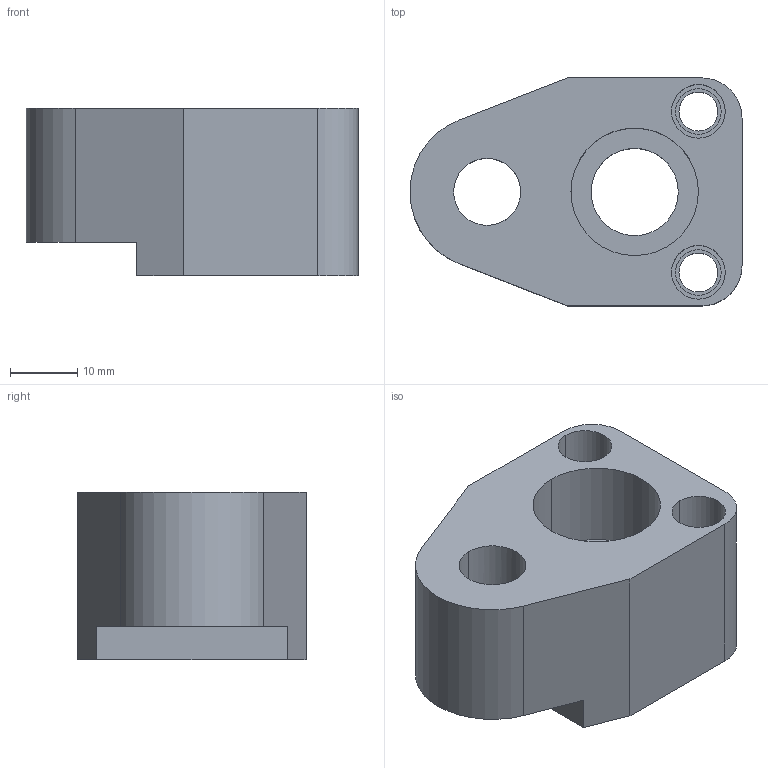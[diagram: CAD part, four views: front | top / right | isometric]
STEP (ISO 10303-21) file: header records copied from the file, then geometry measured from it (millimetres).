
FILE_DESCRIPTION(/* description */ (''),/* implementation_level */ '2;1');
FILE_NAME(/* name */ '3d_tp-fsn10_05676_r00.stp',/* time_stamp */ '2011-01-10T14:08:59+09:00',/* author */ ('MISUMI'),/* organization */ (''),/* preprocessor_version */ 'ST-DEVELOPER v11',/* originating_system */ 'UGS - NX 5.0',/* authorisation */ '');
FILE_SCHEMA (('CONFIG_CONTROL_DESIGN'));
Length unit declared in the file: millimetre
Products named in the file (1): 3d_tp-fsn10_05676_r00
Bounding box: 49.5 x 34 x 25 mm (x, y, z)
Volume: 25198.2 mm3; surface area: 8814.1 mm2
Topology: 1 solids, 1 shells, 37 faces, 92 edges, 61 vertices
Faces by surface type: cylinder 21, plane 14, cone 2
Entity records: 1228 total; most frequent: DIRECTION 212, CARTESIAN_POINT 196, ORIENTED_EDGE 184, EDGE_CURVE 92, AXIS2_PLACEMENT_3D 83, VERTEX_POINT 61, EDGE_LOOP 49, LINE 46
